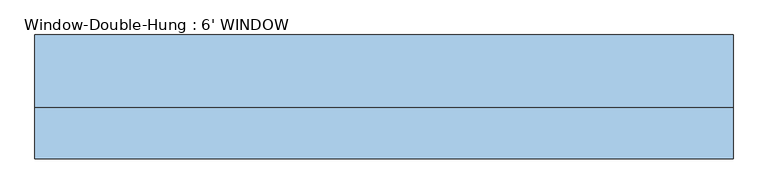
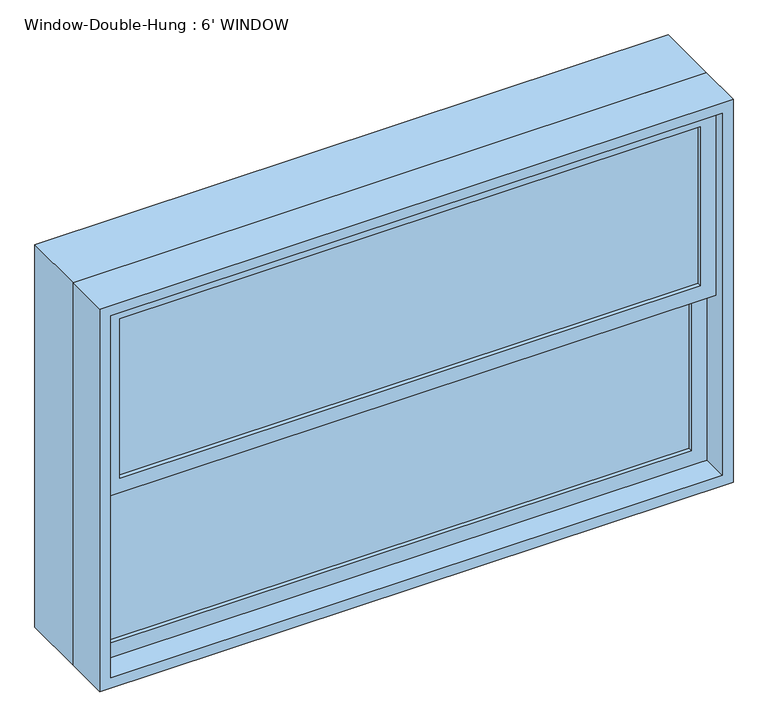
"""IFC4 building model written with IfcOpenShell, lengths in millimetres: window geometry, Window-Double-Hung : 6' WINDOW."""

import ifcopenshell
import ifcopenshell.guid

model = None  # the IFC model being written
_history = None  # IfcOwnerHistory: only IFC2X3 demands one
_inside = {}  # id of a spatial element -> (the spatial element, [elements in it])
_under = {}  # id of a project, library or spatial element -> (it, [spatial elements below it])
_declared = {}  # id of a project -> (the project, [libraries it declares])
_typed = {}  # id of a type object -> (the type object, [elements of that type])
_made_of = {}  # id of a material, layer set ... -> (it, [elements and type objects made of it])


def new_model(schema):
    """Start an empty IFC model of exactly this schema.

    Asked for "IFC4X3", IfcOpenShell would pick the latest addendum, in which some entities
    have other attributes; the version numbers below select the first issue.
    IFC2X3 requires an IfcOwnerHistory on every rooted entity: one is made here for all.
    """
    global model, _history
    if schema == "IFC4X3":
        model = ifcopenshell.file(schema_version=(4, 3, 0, 0))
    else:
        model = ifcopenshell.file(schema=schema)
    _inside.clear()
    _under.clear()
    _declared.clear()
    _typed.clear()
    _made_of.clear()
    _history = None
    if model.schema == "IFC2X3":
        org = make("IfcOrganization", Name="unknown")
        user = make(
            "IfcPersonAndOrganization",
            ThePerson=make("IfcPerson", FamilyName="unknown"),
            TheOrganization=org,
        )
        app = make(
            "IfcApplication",
            ApplicationDeveloper=org,
            Version="unknown",
            ApplicationFullName="unknown",
            ApplicationIdentifier="unknown",
        )
        _history = make(
            "IfcOwnerHistory",
            OwningUser=user,
            OwningApplication=app,
            ChangeAction="ADDED",
            CreationDate=0,
        )
    return model


def make(cls, **values):
    """One entity of the class cls with the attributes given. An attribute that is None is left unset."""
    return model.create_entity(
        cls, **{name: value for name, value in values.items() if value is not None}
    )


def rooted(cls, **values):
    """An entity with a GlobalId (a new one), such as an element, a storey or a relation."""
    return make(cls, GlobalId=ifcopenshell.guid.new(), OwnerHistory=_history, **values)


def si_unit(unit_type, name, prefix=None):
    """IfcSIUnit, for example si_unit("LENGTHUNIT", "METRE", prefix="MILLI")."""
    return make("IfcSIUnit", UnitType=unit_type, Prefix=prefix, Name=name)


def assignment(units):
    """IfcUnitAssignment: the units of a project."""
    return None if units is None else make("IfcUnitAssignment", Units=units)


def point(xyz):
    """IfcCartesianPoint."""
    return None if xyz is None else make("IfcCartesianPoint", Coordinates=xyz)


def direction(xyz):
    """IfcDirection."""
    return None if xyz is None else make("IfcDirection", DirectionRatios=xyz)


def frame(location, z_axis=None, x_axis=None):
    """IfcAxis2Placement3D, a coordinate frame: its origin and axes. An axis left out is left unset."""
    return make(
        "IfcAxis2Placement3D",
        Location=point(location),
        Axis=direction(z_axis),
        RefDirection=direction(x_axis),
    )


def origin():
    """The frame at (0, 0, 0) with its axes left unset."""
    return frame((0.0, 0.0, 0.0))


def place(relative_to, where):
    """IfcLocalPlacement: puts the frame where relative to a parent placement (None: the world)."""
    return make(
        "IfcLocalPlacement", PlacementRelTo=relative_to, RelativePlacement=where
    )


def context(
    kind, dimensions, precision=None, world=None, true_north=None, identifier=None
):
    """IfcGeometricRepresentationContext, for example the 3D "Model" context."""
    return make(
        "IfcGeometricRepresentationContext",
        ContextIdentifier=identifier,
        ContextType=kind,
        CoordinateSpaceDimension=dimensions,
        Precision=precision,
        WorldCoordinateSystem=world,
        TrueNorth=true_north,
    )


def project(units=None, contexts=None):
    """IfcProject with its units and contexts."""
    return rooted(
        "IfcProject",
        Name="project",
        RepresentationContexts=contexts,
        UnitsInContext=assignment(units),
    )


def spatial(cls, under=None, at=None, **own):
    """A site, building, storey or space (cls), placed at a placement, below another one or the project."""
    s = rooted(cls, ObjectPlacement=at, **own)
    if under is not None:
        _under.setdefault(under.id(), (under, []))[1].append(s)
    return s


def polyline(points):
    """IfcPolyline through the points."""
    return make("IfcPolyline", Points=[point(p) for p in points])


def outline(outer, holes=None, kind="AREA"):
    """IfcArbitraryClosedProfileDef: a profile drawn as a closed curve; with holes, ...WithVoids."""
    if holes is None:
        return make("IfcArbitraryClosedProfileDef", ProfileType=kind, OuterCurve=outer)
    return make(
        "IfcArbitraryProfileDefWithVoids",
        ProfileType=kind,
        OuterCurve=outer,
        InnerCurves=holes,
    )


def extrude(swept, where, along, depth):
    """IfcExtrudedAreaSolid: the profile swept, set in the frame where, extruded along a direction by depth."""
    return make(
        "IfcExtrudedAreaSolid",
        SweptArea=swept,
        Position=where,
        ExtrudedDirection=direction(along),
        Depth=depth,
    )


def shape(context_of_items, identifier, shape_type, items):
    """IfcShapeRepresentation: the items that make up one representation, for example the "Body"."""
    return make(
        "IfcShapeRepresentation",
        ContextOfItems=context_of_items,
        RepresentationIdentifier=identifier,
        RepresentationType=shape_type,
        Items=items,
    )


def source(mapping_origin, context_of_items, identifier, shape_type, items):
    """IfcRepresentationMap: a shape defined once, which mapped items show again and again."""
    return make(
        "IfcRepresentationMap",
        MappingOrigin=mapping_origin,
        MappedRepresentation=shape(context_of_items, identifier, shape_type, items),
    )


def transform(
    local_origin,
    x_axis=None,
    y_axis=None,
    z_axis=None,
    scale=None,
    scale2=None,
    scale3=None,
    uniform=True,
):
    """IfcCartesianTransformationOperator3D, or its non-uniform kind. x_axis, y_axis, z_axis: its Axis1, 2, 3."""
    if uniform:
        return make(
            "IfcCartesianTransformationOperator3D",
            Axis1=direction(x_axis),
            Axis2=direction(y_axis),
            LocalOrigin=point(local_origin),
            Scale=scale,
            Axis3=direction(z_axis),
        )
    return make(
        "IfcCartesianTransformationOperator3DnonUniform",
        Axis1=direction(x_axis),
        Axis2=direction(y_axis),
        LocalOrigin=point(local_origin),
        Scale=scale,
        Axis3=direction(z_axis),
        Scale2=scale2,
        Scale3=scale3,
    )


def mapped(mapping_source, mapping_target):
    """IfcMappedItem: shows the shape of a source again, moved by a transform."""
    return make(
        "IfcMappedItem", MappingSource=mapping_source, MappingTarget=mapping_target
    )


def made_of(thing, what):
    """Note that an element or type object is made of a material, layer set ...; save() writes the relation."""
    if what is not None:
        _made_of.setdefault(what.id(), (what, []))[1].append(thing)
    return thing


def element(
    cls,
    number,
    at=None,
    inside=None,
    cuts=None,
    type_object=None,
    material=None,
    context=None,
    identifier="Body",
    shape_type=None,
    held_by="IfcProductDefinitionShape",
    body=None,
    shapes=None,
    **own,
):
    """One element of the class cls, such as IfcWall. Its Tag is "e" and its number.

    at: its placement. inside: the storey or other place that contains it. cuts: it is an
    opening in that element (IfcRelVoidsElement). A single representation is given by context,
    identifier, shape_type and body (its items); several are given by shapes. held_by: the class
    of the entity that holds the representations. save() writes the other relations.
    """
    e = rooted(cls, Tag="e%d" % number, ObjectPlacement=at, **own)
    if body is not None:
        shapes = [shape(context, identifier, shape_type, body)]
    if shapes is not None:
        e.Representation = make(held_by, Representations=shapes)
    if inside is not None:
        _inside.setdefault(inside.id(), (inside, []))[1].append(e)
    if cuts is not None:
        rooted(
            "IfcRelVoidsElement", RelatingBuildingElement=cuts, RelatedOpeningElement=e
        )
    if type_object is not None:
        _typed.setdefault(type_object.id(), (type_object, []))[1].append(e)
    return made_of(e, material)


def aggregate(whole, parts):
    """IfcRelAggregates: a whole, such as a stair, and the parts it consists of."""
    return rooted("IfcRelAggregates", RelatingObject=whole, RelatedObjects=parts)


def save(model, path):
    """Write the relations noted so far, then the file.

    IfcRelAggregates (storeys below a building ...), IfcRelContainedInSpatialStructure (elements
    in a storey), IfcRelDefinesByType, IfcRelAssociatesMaterial and IfcRelDeclares: one each for
    every whole, place, type object, material and project.
    """
    for whole, parts in _under.values():
        aggregate(whole, parts)
    for where, things in _inside.values():
        rooted(
            "IfcRelContainedInSpatialStructure",
            RelatedElements=things,
            RelatingStructure=where,
        )
    for kind, things in _typed.values():
        rooted("IfcRelDefinesByType", RelatedObjects=things, RelatingType=kind)
    for what, things in _made_of.values():
        rooted("IfcRelAssociatesMaterial", RelatedObjects=things, RelatingMaterial=what)
    for by, libraries in _declared.values():
        rooted("IfcRelDeclares", RelatingContext=by, RelatedDefinitions=libraries)
    model.write(path)


def window_double_hung_6_window_203ecefd(model_context):
    return source(origin(), model_context, "Body", "SweptSolid", [
        extrude(outline(polyline([(838.2, -82.55), (-838.2, -82.55), (-838.2, -76.2), (838.2, -76.2), (838.2, -82.55)])), frame((0.0, 0.0, 990.6), z_axis=(0.0, 0.0, 1.0), x_axis=(1.0, 0.0, 0.0)), (0.0, 0.0, 1.0), 485.775),
        extrude(outline(polyline([(-838.2, -69.85), (-838.2, -63.5), (838.2, -63.5), (838.2, -69.85), (-838.2, -69.85)])), frame((0.0, 0.0, 990.6), z_axis=(0.0, 0.0, 1.0), x_axis=(1.0, 0.0, 0.0)), (0.0, 0.0, 1.0), 485.775),
        extrude(outline(polyline([(838.2, -127.0), (-838.2, -127.0), (-838.2, -120.65), (838.2, -120.65), (838.2, -127.0)])), frame((0.0, 0.0, 1520.825), z_axis=(0.0, 0.0, 1.0), x_axis=(1.0, 0.0, 0.0)), (0.0, 0.0, 1.0), 485.775),
        extrude(outline(polyline([(-838.2, -114.3), (-838.2, -107.95), (838.2, -107.95), (838.2, -114.3), (-838.2, -114.3)])), frame((0.0, 0.0, 1520.825), z_axis=(0.0, 0.0, 1.0), x_axis=(1.0, 0.0, 0.0)), (0.0, 0.0, 1.0), 485.775),
        extrude(outline(polyline([(1520.825, 882.65), (1520.825, -882.65), (946.15, -882.65), (946.15, 882.65), (1520.825, 882.65)]), holes=[polyline([(1476.375, -838.2), (1476.375, 838.2), (990.6, 838.2), (990.6, -838.2), (1476.375, -838.2)])]), frame((0.0, -95.25, 0.0), z_axis=(0.0, 1.0, 0.0), x_axis=(0.0, 0.0, 1.0)), (0.0, 0.0, 1.0), 44.45),
        extrude(outline(polyline([(2051.05, 882.65), (2051.05, -882.65), (1476.375, -882.65), (1476.375, 882.65), (2051.05, 882.65)]), holes=[polyline([(2006.6, -838.2), (2006.6, 838.2), (1520.825, 838.2), (1520.825, -838.2), (2006.6, -838.2)])]), frame((0.0, -139.7, 0.0), z_axis=(0.0, 1.0, 0.0), x_axis=(0.0, 0.0, 1.0)), (0.0, 0.0, 1.0), 44.45),
        extrude(outline(polyline([(2082.8, 914.4), (2082.8, -914.4), (914.4, -914.4), (914.4, 914.4), (2082.8, 914.4)]), holes=[polyline([(2051.05, -882.65), (2051.05, 882.65), (946.15, 882.65), (946.15, -882.65), (2051.05, -882.65)])]), frame((0.0, -171.45, 0.0), z_axis=(0.0, 1.0, 0.0), x_axis=(0.0, 0.0, 1.0)), (0.0, 0.0, 1.0), 133.35),
        extrude(outline(polyline([(2082.8, 914.4), (2082.8, -914.4), (914.4, -914.4), (914.4, 914.4), (2082.8, 914.4)]), holes=[polyline([(2063.75, 895.35), (933.45, 895.35), (933.45, -895.35), (2063.75, -895.35), (2063.75, 895.35)])]), frame((0.0, -38.1, 0.0), z_axis=(0.0, 1.0, 0.0), x_axis=(0.0, 0.0, 1.0)), (0.0, 0.0, 1.0), 190.5),
    ])


if __name__ == "__main__":
    model = new_model("IFC4")
    model_context = context("Model", 3, world=origin())
    ifc_project = project(units=[si_unit("LENGTHUNIT", "METRE", prefix="MILLI")], contexts=[model_context])
    site = spatial("IfcSite", under=ifc_project)
    building = spatial("IfcBuilding", under=site)
    placement = place(None, origin())
    window_double_hung_6_window_shape = window_double_hung_6_window_203ecefd(model_context)
    element("IfcWindow", 1, ObjectType="Window-Double-Hung : 6' WINDOW", at=placement, inside=building, context=model_context, shape_type="MappedRepresentation", body=[
        mapped(window_double_hung_6_window_shape, transform((0.0, 0.0, 0.0), x_axis=(1.0, 0.0, 0.0), y_axis=(0.0, 1.0, 0.0), z_axis=(0.0, 0.0, 1.0))),
    ])
    save(model, "model.ifc")
